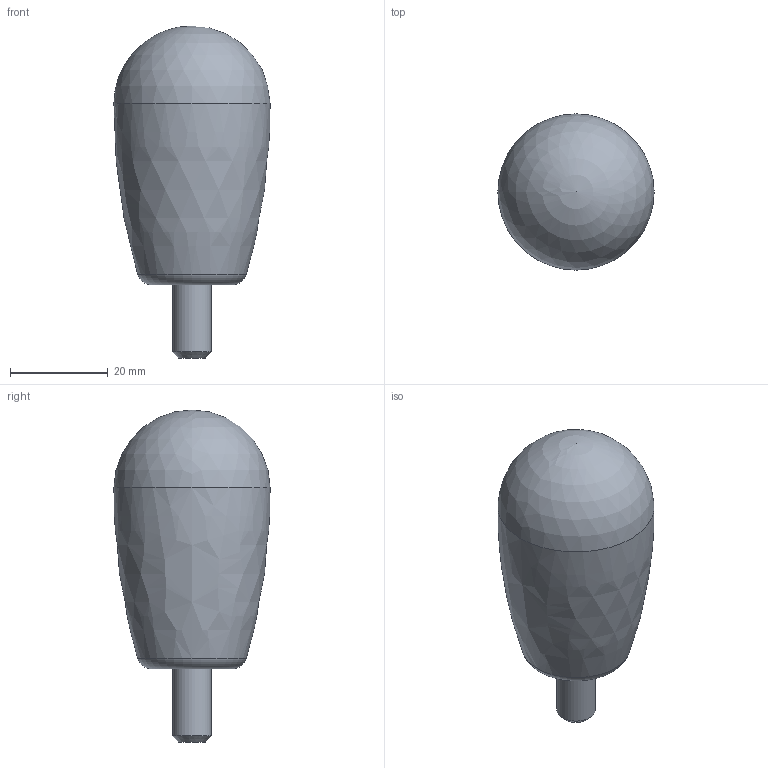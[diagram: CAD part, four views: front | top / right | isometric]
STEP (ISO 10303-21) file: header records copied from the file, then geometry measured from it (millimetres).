
FILE_DESCRIPTION( ('This file contains a STEP AP42 implementation' ,'as created by ZW3D STEP Interface translator.') ,'2;1' );
FILE_NAME( 'Galka owalna A 32.10.S.stp' ,'26 813. 73341', (''), ('ZWCAD Software Co.'), 'Version 1.0', 'ZW3D to STEP translator', '' );
FILE_SCHEMA(('AP242_MANAGED_MODEL_BASED_3D_ENGINEERING_MIM_LF { 1 0 10303 442 1 1 4 }'));
Length unit declared in the file: millimetre
Products named in the file (1): 0
Bounding box: 32 x 32 x 68 mm (x, y, z)
Volume: 33092.4 mm3; surface area: 8073.1 mm2
Topology: 2 solids, 2 shells, 24 faces, 51 edges, 33 vertices
Faces by surface type: plane 18, cylinder 2, sphere 1, bspline 1, torus 1, cone 1
Full cylindrical faces by diameter (mm): 8 x2
Entity records: 701 total; most frequent: CARTESIAN_POINT 134, DIRECTION 109, ORIENTED_EDGE 100, EDGE_CURVE 50, VECTOR 39, LINE 39, AXIS2_PLACEMENT_3D 35, VERTEX_POINT 33
